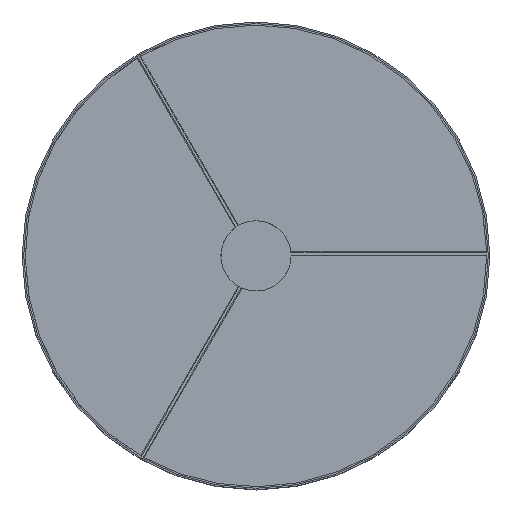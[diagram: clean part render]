
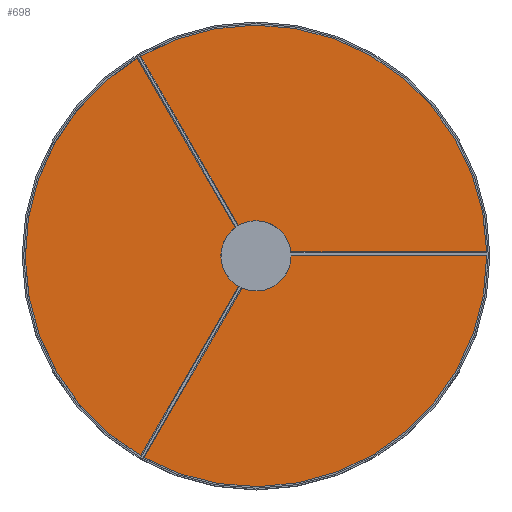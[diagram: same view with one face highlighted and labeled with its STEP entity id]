
A CAD part, top view. The second image highlights one B-rep face of the part: STEP entity #698.
In plain terms, the highlighted planar face has unit normal (0, 0, 1).
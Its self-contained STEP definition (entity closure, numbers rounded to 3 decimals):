
#196=FACE_OUTER_BOUND('',#237,.T.);
#237=EDGE_LOOP('',(#488));
#293=CIRCLE('',#749,298.);
#322=VERTEX_POINT('',#1007);
#391=EDGE_CURVE('',#322,#322,#293,.T.);
#488=ORIENTED_EDGE('',*,*,#391,.F.);
#682=PLANE('',#748);
#698=ADVANCED_FACE('',(#196),#682,.T.);
#748=AXIS2_PLACEMENT_3D('',#1006,#820,#821);
#749=AXIS2_PLACEMENT_3D('',#1008,#822,#823);
#820=DIRECTION('center_axis',(0.,0.,1.));
#821=DIRECTION('ref_axis',(1.,0.,0.));
#822=DIRECTION('center_axis',(0.,0.,-1.));
#823=DIRECTION('ref_axis',(-1.,0.,0.));
#1006=CARTESIAN_POINT('Origin',(0.,0.,12.));
#1007=CARTESIAN_POINT('',(298.,0.,12.));
#1008=CARTESIAN_POINT('Origin',(0.,0.,12.));
